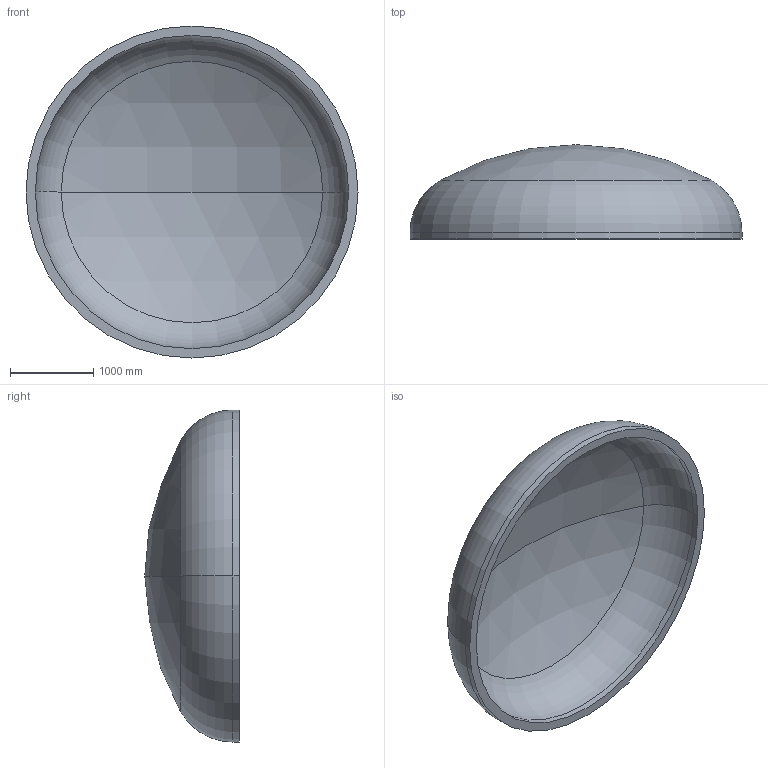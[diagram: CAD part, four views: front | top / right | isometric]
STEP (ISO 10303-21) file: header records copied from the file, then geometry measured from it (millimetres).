
FILE_DESCRIPTION (( 'STEP AP203' ), '1' );
FILE_NAME ('DIN 28013 Korbbogenform_-_Boden DIN 28013 - 4000 x 75 - I - s=112.step', '2016-07-01T22:53:03', ( '' ), ( '' ), 'SwSTEP 2.0', 'SolidWorks 2013', '' );
FILE_SCHEMA (( 'CONFIG_CONTROL_DESIGN' ));
Length unit declared in the file: millimetre
Products named in the file (1): DIN 28013 Korbbogenform_-_Boden DIN 28013 - 4000 x 75 - I - s=112
Bounding box: 4000 x 1137.18 x 4000 mm (x, y, z)
Volume: 1981139986.8 mm3; surface area: 36771785 mm2
Topology: 1 solids, 1 shells, 13 faces, 24 edges, 14 vertices
Faces by surface type: torus 4, cylinder 4, sphere 4, plane 1
Entity records: 407 total; most frequent: DIRECTION 72, CARTESIAN_POINT 52, ORIENTED_EDGE 48, AXIS2_PLACEMENT_3D 34, EDGE_CURVE 24, CIRCLE 20, VERTEX_POINT 14, EDGE_LOOP 14
